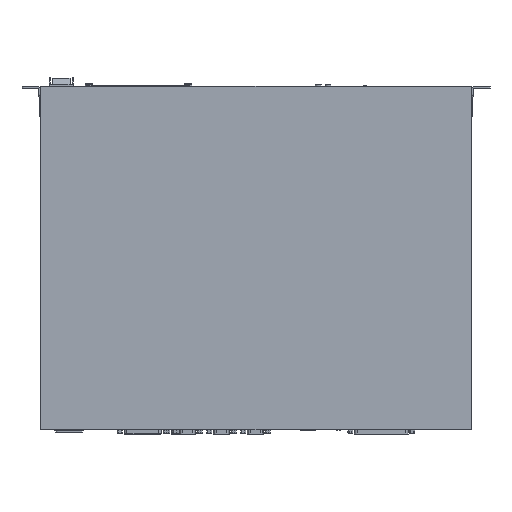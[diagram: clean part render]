
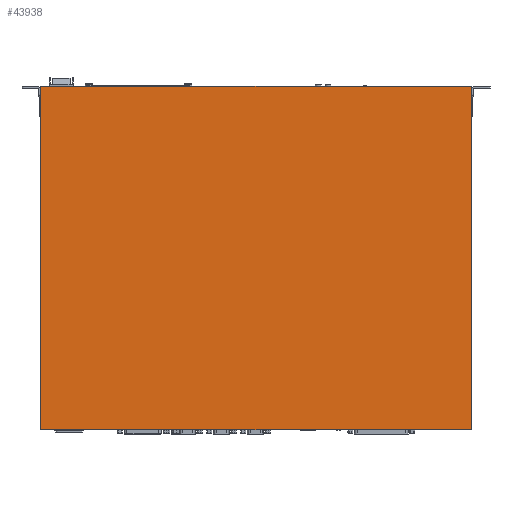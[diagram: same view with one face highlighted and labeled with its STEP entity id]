
A CAD part, front view. The second image highlights one B-rep face of the part: STEP entity #43938.
In plain terms, the highlighted planar face has unit normal (0, -1, 0).
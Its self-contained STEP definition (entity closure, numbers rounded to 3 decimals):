
#4298=FACE_OUTER_BOUND('',#7226,.T.);
#7226=EDGE_LOOP('',(#29986,#29987,#29988,#29989));
#10771=LINE('',#65134,#14727);
#10787=LINE('',#65180,#14743);
#11167=LINE('',#66208,#15123);
#11717=LINE('',#67771,#15673);
#14727=VECTOR('',#51222,354.);
#14743=VECTOR('',#51256,354.);
#15123=VECTOR('',#51948,443.7);
#15673=VECTOR('',#52938,443.7);
#18677=VERTEX_POINT('',#65130);
#18679=VERTEX_POINT('',#65133);
#18698=VERTEX_POINT('',#65174);
#18700=VERTEX_POINT('',#65178);
#22716=EDGE_CURVE('',#18679,#18677,#10771,.T.);
#22738=EDGE_CURVE('',#18700,#18698,#10787,.T.);
#23232=EDGE_CURVE('',#18700,#18679,#11167,.T.);
#23871=EDGE_CURVE('',#18698,#18677,#11717,.T.);
#29986=ORIENTED_EDGE('',*,*,#23871,.F.);
#29987=ORIENTED_EDGE('',*,*,#22738,.F.);
#29988=ORIENTED_EDGE('',*,*,#23232,.T.);
#29989=ORIENTED_EDGE('',*,*,#22716,.T.);
#39914=PLANE('',#47203);
#43938=ADVANCED_FACE('',(#4298),#39914,.F.);
#47203=AXIS2_PLACEMENT_3D('',#68229,#53537,#53538);
#51222=DIRECTION('',(0.,0.,1.));
#51256=DIRECTION('',(0.,0.,1.));
#51948=DIRECTION('',(1.,0.,0.));
#52938=DIRECTION('',(1.,0.,0.));
#53537=DIRECTION('center_axis',(0.,1.,0.));
#53538=DIRECTION('ref_axis',(0.,0.,1.));
#65130=CARTESIAN_POINT('',(221.85,0.,177.));
#65133=CARTESIAN_POINT('',(221.85,0.,-177.));
#65134=CARTESIAN_POINT('',(221.85,0.,-177.));
#65174=CARTESIAN_POINT('',(-221.85,0.,177.));
#65178=CARTESIAN_POINT('',(-221.85,0.,-177.));
#65180=CARTESIAN_POINT('',(-221.85,0.,-177.));
#66208=CARTESIAN_POINT('',(-221.85,0.,-177.));
#67771=CARTESIAN_POINT('',(-110.925,0.,177.));
#68229=CARTESIAN_POINT('Origin',(578.531,0.,
177.));
